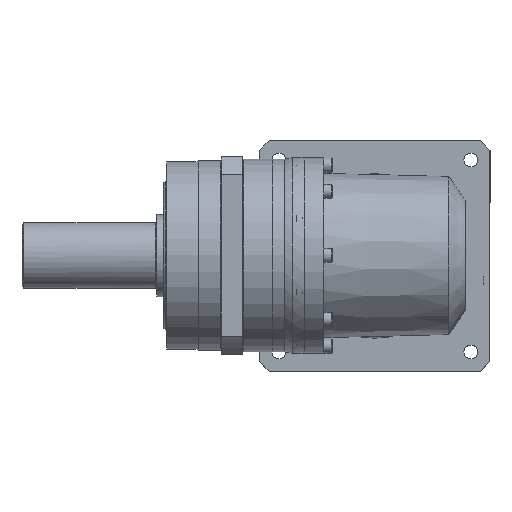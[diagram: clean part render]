
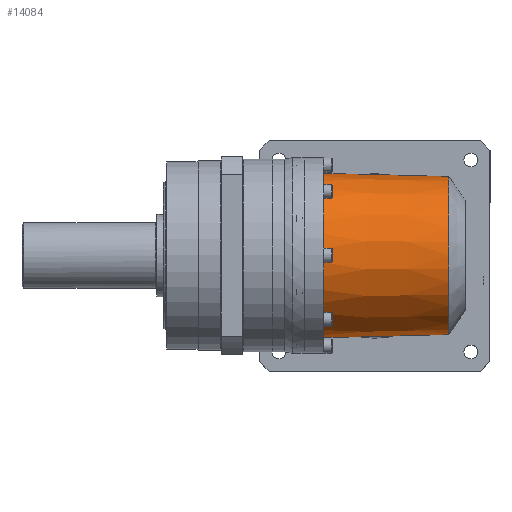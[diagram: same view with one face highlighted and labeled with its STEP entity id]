
A CAD part, top view. The second image highlights one B-rep face of the part: STEP entity #14084.
In plain terms, the highlighted conical face has half-angle 1.507 degrees and reference radius 49 mm.
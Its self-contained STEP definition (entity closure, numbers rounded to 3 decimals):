
#786=CONICAL_SURFACE('',#15725,49.,0.026);
#1631=FACE_OUTER_BOUND('',#2473,.T.);
#2473=EDGE_LOOP('',(#10772,#10773,#10774,#10775,#10776,#10777,#10778));
#3271=B_SPLINE_CURVE_WITH_KNOTS('',3,(#24040,#24041,#24042,#24043),
 .UNSPECIFIED.,.F.,.F.,(4,4),(0.5,5.292),
 .UNSPECIFIED.);
#3275=B_SPLINE_CURVE_WITH_KNOTS('',3,(#24201,#24202,#24203,#24204,#24205,
#24206,#24207,#24208,#24209,#24210,#24211,#24212,#24213,#24214,#24215,#24216,
#24217,#24218,#24219,#24220,#24221,#24222,#24223,#24224,#24225,#24226,#24227,
#24228,#24229,#24230,#24231,#24232,#24233,#24234,#24235,#24236,#24237,#24238,
#24239,#24240),.UNSPECIFIED.,.F.,.F.,(4,3,3,3,3,3,3,3,3,3,3,3,3,4),(-10.923,
-10.569,-10.204,-9.819,-9.568,
-9.149,-8.714,-8.257,-8.03,
-7.583,-7.137,-6.894,-6.651,
-6.492),.UNSPECIFIED.);
#3280=B_SPLINE_CURVE_WITH_KNOTS('',3,(#24273,#24274,#24275,#24276,#24277,
#24278,#24279,#24280,#24281,#24282,#24283,#24284,#24285,#24286,#24287,#24288,
#24289,#24290,#24291,#24292,#24293,#24294,#24295,#24296,#24297,#24298,#24299,
#24300,#24301,#24302,#24303,#24304,#24305,#24306,#24307,#24308,#24309,#24310,
#24311,#24312),.UNSPECIFIED.,.F.,.F.,(4,3,3,3,3,3,3,3,3,3,3,3,3,4),(-17.257,
-16.765,-16.229,-15.718,-15.217,-14.775,
-14.561,-14.258,-14.181,-13.89,
-13.609,-13.335,-13.072,-12.825),
 .UNSPECIFIED.);
#3281=B_SPLINE_CURVE_WITH_KNOTS('',3,(#24334,#24335,#24336,#24337),
 .UNSPECIFIED.,.F.,.F.,(4,4),(-5.292,-0.5),
 .UNSPECIFIED.);
#5060=CIRCLE('',#15726,48.);
#5061=CIRCLE('',#15727,48.);
#5062=CIRCLE('',#15728,50.);
#6360=VERTEX_POINT('',#23989);
#6361=VERTEX_POINT('',#24039);
#6363=VERTEX_POINT('',#24125);
#6364=VERTEX_POINT('',#24126);
#6365=VERTEX_POINT('',#24200);
#6369=VERTEX_POINT('',#24333);
#6372=VERTEX_POINT('',#24398);
#8105=EDGE_CURVE('',#6360,#6361,#3271,.T.);
#8109=EDGE_CURVE('',#6363,#6365,#3275,.T.);
#8114=EDGE_CURVE('',#6361,#6364,#3280,.T.);
#8115=EDGE_CURVE('',#6365,#6369,#3281,.T.);
#8119=EDGE_CURVE('',#6363,#6372,#5060,.T.);
#8120=EDGE_CURVE('',#6372,#6364,#5061,.T.);
#8121=EDGE_CURVE('',#6369,#6360,#5062,.T.);
#10772=ORIENTED_EDGE('',*,*,#8115,.F.);
#10773=ORIENTED_EDGE('',*,*,#8109,.F.);
#10774=ORIENTED_EDGE('',*,*,#8119,.T.);
#10775=ORIENTED_EDGE('',*,*,#8120,.T.);
#10776=ORIENTED_EDGE('',*,*,#8114,.F.);
#10777=ORIENTED_EDGE('',*,*,#8105,.F.);
#10778=ORIENTED_EDGE('',*,*,#8121,.F.);
#14084=ADVANCED_FACE('',(#1631),#786,.T.);
#15725=AXIS2_PLACEMENT_3D('',#24397,#18513,#18514);
#15726=AXIS2_PLACEMENT_3D('',#24399,#18515,#18516);
#15727=AXIS2_PLACEMENT_3D('',#24400,#18517,#18518);
#15728=AXIS2_PLACEMENT_3D('',#24401,#18519,#18520);
#18513=DIRECTION('center_axis',(-1.,0.,0.));
#18514=DIRECTION('ref_axis',(0.,0.,-1.));
#18515=DIRECTION('center_axis',(-1.,0.,0.));
#18516=DIRECTION('ref_axis',(0.,0.,1.));
#18517=DIRECTION('center_axis',(-1.,0.,0.));
#18518=DIRECTION('ref_axis',(0.,0.,1.));
#18519=DIRECTION('center_axis',(-1.,0.,0.));
#18520=DIRECTION('ref_axis',(0.,0.,1.));
#23989=CARTESIAN_POINT('',(12.,-35.15,35.559));
#24039=CARTESIAN_POINT('',(59.899,-34.554,34.374));
#24040=CARTESIAN_POINT('Ctrl Pts',(12.,-35.15,35.559));
#24041=CARTESIAN_POINT('Ctrl Pts',(27.966,-34.952,35.164));
#24042=CARTESIAN_POINT('Ctrl Pts',(43.932,-34.753,34.769));
#24043=CARTESIAN_POINT('Ctrl Pts',(59.899,-34.554,34.374));
#24125=CARTESIAN_POINT('',(88.,8.479,47.245));
#24126=CARTESIAN_POINT('',(88.,-8.479,47.245));
#24200=CARTESIAN_POINT('',(59.899,34.554,34.374));
#24201=CARTESIAN_POINT('Ctrl Pts',(88.,8.479,47.246));
#24202=CARTESIAN_POINT('Ctrl Pts',(87.704,9.501,47.07));
#24203=CARTESIAN_POINT('Ctrl Pts',(87.357,10.505,46.864));
#24204=CARTESIAN_POINT('Ctrl Pts',(86.962,11.488,46.631));
#24205=CARTESIAN_POINT('Ctrl Pts',(86.555,12.499,46.392));
#24206=CARTESIAN_POINT('Ctrl Pts',(86.099,13.488,46.125));
#24207=CARTESIAN_POINT('Ctrl Pts',(85.597,14.452,45.836));
#24208=CARTESIAN_POINT('Ctrl Pts',(85.068,15.466,45.53));
#24209=CARTESIAN_POINT('Ctrl Pts',(84.49,16.452,45.2));
#24210=CARTESIAN_POINT('Ctrl Pts',(83.867,17.405,44.849));
#24211=CARTESIAN_POINT('Ctrl Pts',(83.46,18.028,44.619));
#24212=CARTESIAN_POINT('Ctrl Pts',(83.034,18.637,44.381));
#24213=CARTESIAN_POINT('Ctrl Pts',(82.591,19.231,44.136));
#24214=CARTESIAN_POINT('Ctrl Pts',(81.849,20.225,43.726));
#24215=CARTESIAN_POINT('Ctrl Pts',(81.059,21.177,43.295));
#24216=CARTESIAN_POINT('Ctrl Pts',(80.223,22.089,42.849));
#24217=CARTESIAN_POINT('Ctrl Pts',(79.358,23.033,42.388));
#24218=CARTESIAN_POINT('Ctrl Pts',(78.444,23.934,41.912));
#24219=CARTESIAN_POINT('Ctrl Pts',(77.486,24.792,41.427));
#24220=CARTESIAN_POINT('Ctrl Pts',(76.482,25.691,40.919));
#24221=CARTESIAN_POINT('Ctrl Pts',(75.431,26.543,40.402));
#24222=CARTESIAN_POINT('Ctrl Pts',(74.336,27.347,39.884));
#24223=CARTESIAN_POINT('Ctrl Pts',(73.79,27.748,39.626));
#24224=CARTESIAN_POINT('Ctrl Pts',(73.233,28.138,39.368));
#24225=CARTESIAN_POINT('Ctrl Pts',(72.667,28.516,39.11));
#24226=CARTESIAN_POINT('Ctrl Pts',(71.556,29.257,38.605));
#24227=CARTESIAN_POINT('Ctrl Pts',(70.406,29.954,38.103));
#24228=CARTESIAN_POINT('Ctrl Pts',(69.22,30.605,37.613));
#24229=CARTESIAN_POINT('Ctrl Pts',(68.034,31.256,37.124));
#24230=CARTESIAN_POINT('Ctrl Pts',(66.811,31.862,36.647));
#24231=CARTESIAN_POINT('Ctrl Pts',(65.554,32.421,36.19));
#24232=CARTESIAN_POINT('Ctrl Pts',(64.87,32.726,35.942));
#24233=CARTESIAN_POINT('Ctrl Pts',(64.175,33.017,35.7));
#24234=CARTESIAN_POINT('Ctrl Pts',(63.471,33.294,35.466));
#24235=CARTESIAN_POINT('Ctrl Pts',(62.767,33.571,35.231));
#24236=CARTESIAN_POINT('Ctrl Pts',(62.053,33.834,35.005));
#24237=CARTESIAN_POINT('Ctrl Pts',(61.33,34.083,34.788));
#24238=CARTESIAN_POINT('Ctrl Pts',(60.857,34.246,34.645));
#24239=CARTESIAN_POINT('Ctrl Pts',(60.38,34.403,34.507));
#24240=CARTESIAN_POINT('Ctrl Pts',(59.899,34.554,34.374));
#24273=CARTESIAN_POINT('Ctrl Pts',(59.899,-34.554,34.374));
#24274=CARTESIAN_POINT('Ctrl Pts',(61.387,-34.087,34.787));
#24275=CARTESIAN_POINT('Ctrl Pts',(62.837,-33.563,35.243));
#24276=CARTESIAN_POINT('Ctrl Pts',(64.246,-32.982,35.727));
#24277=CARTESIAN_POINT('Ctrl Pts',(65.782,-32.349,36.256));
#24278=CARTESIAN_POINT('Ctrl Pts',(67.27,-31.648,36.82));
#24279=CARTESIAN_POINT('Ctrl Pts',(68.706,-30.882,37.403));
#24280=CARTESIAN_POINT('Ctrl Pts',(70.073,-30.152,37.959));
#24281=CARTESIAN_POINT('Ctrl Pts',(71.393,-29.363,38.532));
#24282=CARTESIAN_POINT('Ctrl Pts',(72.664,-28.514,39.11));
#24283=CARTESIAN_POINT('Ctrl Pts',(73.913,-27.68,39.678));
#24284=CARTESIAN_POINT('Ctrl Pts',(75.114,-26.789,40.251));
#24285=CARTESIAN_POINT('Ctrl Pts',(76.261,-25.841,40.817));
#24286=CARTESIAN_POINT('Ctrl Pts',(77.271,-25.005,41.315));
#24287=CARTESIAN_POINT('Ctrl Pts',(78.238,-24.124,41.809));
#24288=CARTESIAN_POINT('Ctrl Pts',(79.158,-23.199,42.289));
#24289=CARTESIAN_POINT('Ctrl Pts',(79.604,-22.751,42.522));
#24290=CARTESIAN_POINT('Ctrl Pts',(80.038,-22.292,42.752));
#24291=CARTESIAN_POINT('Ctrl Pts',(80.461,-21.822,42.978));
#24292=CARTESIAN_POINT('Ctrl Pts',(81.058,-21.158,43.297));
#24293=CARTESIAN_POINT('Ctrl Pts',(81.632,-20.474,43.609));
#24294=CARTESIAN_POINT('Ctrl Pts',(82.18,-19.768,43.91));
#24295=CARTESIAN_POINT('Ctrl Pts',(82.319,-19.589,43.986));
#24296=CARTESIAN_POINT('Ctrl Pts',(82.456,-19.408,44.062));
#24297=CARTESIAN_POINT('Ctrl Pts',(82.592,-19.227,44.137));
#24298=CARTESIAN_POINT('Ctrl Pts',(83.107,-18.537,44.422));
#24299=CARTESIAN_POINT('Ctrl Pts',(83.598,-17.827,44.697));
#24300=CARTESIAN_POINT('Ctrl Pts',(84.064,-17.1,44.96));
#24301=CARTESIAN_POINT('Ctrl Pts',(84.511,-16.4,45.213));
#24302=CARTESIAN_POINT('Ctrl Pts',(84.935,-15.683,45.454));
#24303=CARTESIAN_POINT('Ctrl Pts',(85.332,-14.95,45.682));
#24304=CARTESIAN_POINT('Ctrl Pts',(85.719,-14.236,45.905));
#24305=CARTESIAN_POINT('Ctrl Pts',(86.082,-13.506,46.116));
#24306=CARTESIAN_POINT('Ctrl Pts',(86.418,-12.763,46.312));
#24307=CARTESIAN_POINT('Ctrl Pts',(86.741,-12.048,46.5));
#24308=CARTESIAN_POINT('Ctrl Pts',(87.039,-11.32,46.676));
#24309=CARTESIAN_POINT('Ctrl Pts',(87.31,-10.581,46.836));
#24310=CARTESIAN_POINT('Ctrl Pts',(87.564,-9.89,46.986));
#24311=CARTESIAN_POINT('Ctrl Pts',(87.795,-9.189,47.123));
#24312=CARTESIAN_POINT('Ctrl Pts',(88.,-8.479,47.246));
#24333=CARTESIAN_POINT('',(12.,35.15,35.559));
#24334=CARTESIAN_POINT('Ctrl Pts',(59.899,34.554,34.374));
#24335=CARTESIAN_POINT('Ctrl Pts',(43.932,34.753,34.769));
#24336=CARTESIAN_POINT('Ctrl Pts',(27.966,34.952,35.164));
#24337=CARTESIAN_POINT('Ctrl Pts',(12.,35.15,35.559));
#24397=CARTESIAN_POINT('Origin',(50.,0.,0.));
#24398=CARTESIAN_POINT('',(88.,48.,0.));
#24399=CARTESIAN_POINT('Origin',(88.,0.,0.));
#24400=CARTESIAN_POINT('Origin',(88.,0.,0.));
#24401=CARTESIAN_POINT('Origin',(12.,0.,0.));
